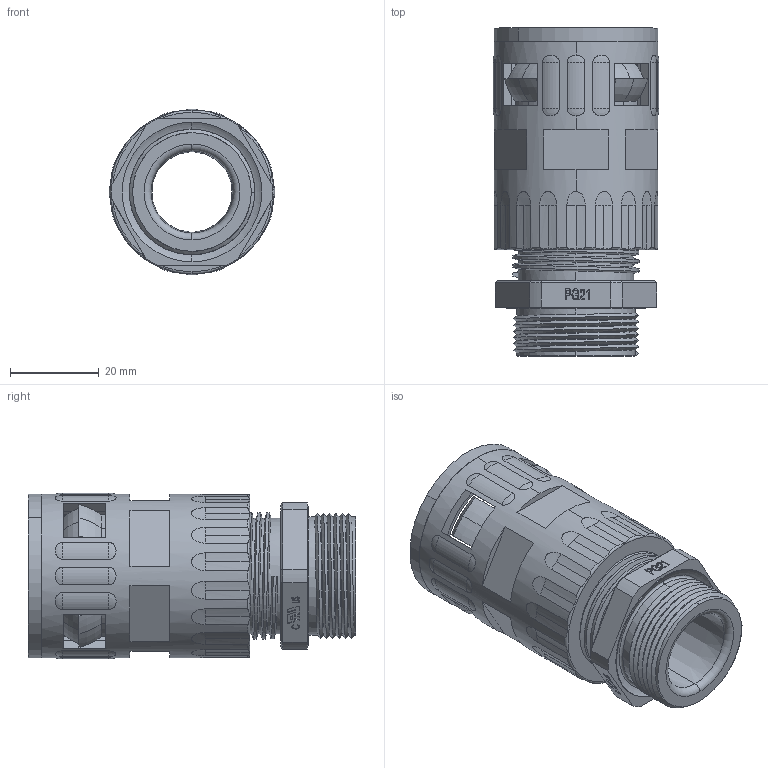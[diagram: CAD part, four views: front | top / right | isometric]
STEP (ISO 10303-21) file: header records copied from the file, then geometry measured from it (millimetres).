
FILE_DESCRIPTION (( 'STEP AP203' ), '1' );
FILE_NAME ('WQGZ-P21-AD28.5.STEP', '2020-03-11T06:29:28', ( '' ), ( '' ), 'SwSTEP 2.0', 'SolidWorks 2016', '' );
FILE_SCHEMA (( 'CONFIG_CONTROL_DESIGN' ));
Length unit declared in the file: millimetre
Products named in the file (8): WQG2-Tr28-AD28.5; WQGZ-P21-AD28.5; GFD-AD28.5; WQG2-Tr28-AD28.5-01; 蚾饜极7; CTH-P21; HSK-P21-01; NSK-AD28.5
Assembly tree (7 placements, depth 3):
  WQGZ-P21-AD28.5
    WQG2-Tr28-AD28.5
      WQG2-Tr28-AD28.5-01
      GFD-AD28.5
      NSK-AD28.5
    蚾饜极7
      HSK-P21-01
      CTH-P21
Bounding box: 37.4 x 74 x 37.4 mm (x, y, z)
Volume: 34926.3 mm3; surface area: 29617.7 mm2
Topology: 5 solids, 5 shells, 698 faces, 1896 edges, 1201 vertices
Faces by surface type: plane 319, cylinder 128, cone 77, bspline 73, torus 59, sphere 42
Entity records: 28554 total; most frequent: CARTESIAN_POINT 11050, ORIENTED_EDGE 3660, DIRECTION 3235, EDGE_CURVE 1830, VERTEX_POINT 1177, AXIS2_PLACEMENT_3D 1154, LINE 927, VECTOR 927
